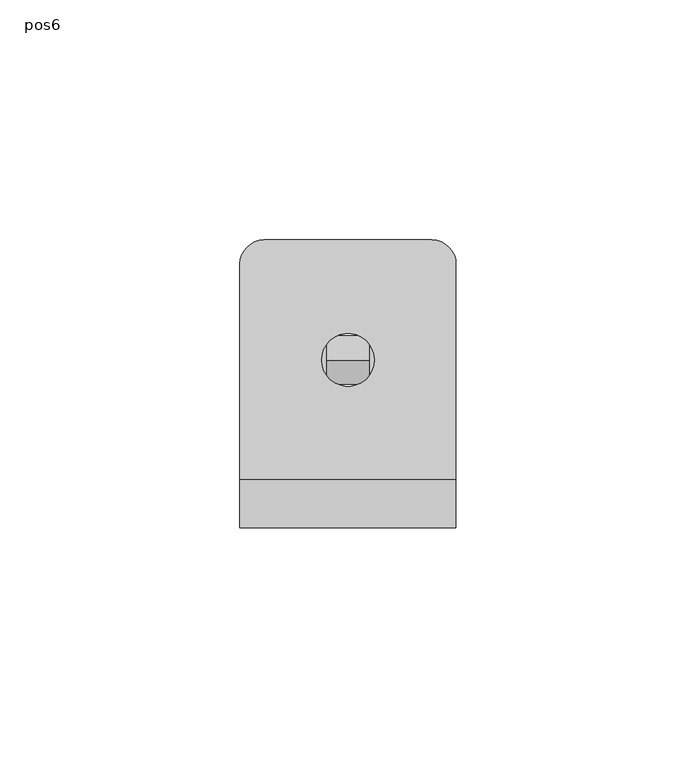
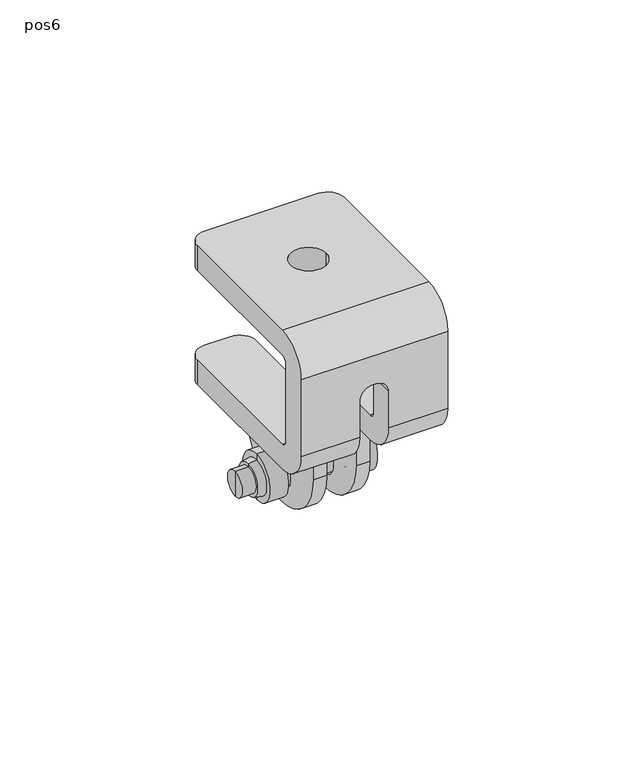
"""IFC4 building model written with IfcOpenShell, lengths in millimetres: proxy geometry, ePS8-BUMP-CVM : pos6."""

from ifc_helpers import new_model, si_unit, point, frame, frame_2d, origin, origin_with_axes, place, context, project, spatial, polyline, circle_curve, trimmed, segment, composite_curve, outline, extrude, source, transform, mapped, element, save
from ifc_brep_helpers import plane_surface, cylinder_surface, revolved_surface, advanced_brep


def pos6_370ce32c(model_context):
    return source(origin(), model_context, "Body", "SolidModel", [
        advanced_brep(
        [(9.6, 0.0, -64.9833675), (9.6, 0.0, -49.0166325), (16.6, 0.0, -49.0166325), (16.6, 0.0, -64.9833675), (9.6, 0.0, -62.0464553), (9.6, 0.0, -51.9535447), (-10.4, 0.0, -62.0464553), (-10.4, 0.0, -51.9535447), (-10.4, 0.0, -64.4129714), (-10.4, 0.0, -49.5870286), (-15.9, 0.0, -64.4129714), (-15.9, 0.0, -49.5870286), (-15.9, 0.0, -62.532406), (-15.9, 0.0, -51.467594), (-22.5, 0.0, -61.0092665), (-22.5, 0.0, -52.9907335), (-18.4, 0.0, -52.9907335), (-18.4, 0.0, -61.0092665), (-22.5, 0.0, -57.0), (16.6, 0.0, -57.0), (-18.4, 0.0, -62.0464553), (-18.4, 0.0, -51.9535447)],
        [
            (0, 1, circle_curve(frame((9.6, 0.0, -57.0), z_axis=(1.0, 0.0, 0.0), x_axis=(0.0, 0.0, 1.0)), 7.9833675)),
            (1, 2),
            (2, 3, circle_curve(frame((16.6, 0.0, -57.0), z_axis=(-1.0, 0.0, 0.0), x_axis=(0.0, 0.0, 1.0)), 7.9833675)),
            (3, 0),
            (1, 0, circle_curve(frame((9.6, 0.0, -57.0), z_axis=(1.0, 0.0, 0.0), x_axis=(0.0, 0.0, 1.0)), 7.9833675)),
            (3, 2, circle_curve(frame((16.6, 0.0, -57.0), z_axis=(-1.0, 0.0, 0.0), x_axis=(0.0, 0.0, 1.0)), 7.9833675)),
            (4, 5, circle_curve(frame((9.6, 0.0, -57.0), z_axis=(1.0, 0.0, 0.0), x_axis=(0.0, 0.0, 1.0)), 5.0464553)),
            (5, 1),
            (0, 4),
            (5, 4, circle_curve(frame((9.6, 0.0, -57.0), z_axis=(1.0, 0.0, 0.0), x_axis=(0.0, 0.0, 1.0)), 5.0464553)),
            (6, 7, circle_curve(frame((-10.4, 0.0, -57.0), z_axis=(1.0, 0.0, 0.0), x_axis=(0.0, 0.0, 1.0)), 5.0464553)),
            (7, 5),
            (4, 6),
            (7, 6, circle_curve(frame((-10.4, 0.0, -57.0), z_axis=(1.0, 0.0, 0.0), x_axis=(0.0, 0.0, 1.0)), 5.0464553)),
            (8, 9, circle_curve(frame((-10.4, 0.0, -57.0), z_axis=(1.0, 0.0, 0.0), x_axis=(0.0, 0.0, 1.0)), 7.4129714)),
            (9, 7),
            (6, 8),
            (9, 8, circle_curve(frame((-10.4, 0.0, -57.0), z_axis=(1.0, 0.0, 0.0), x_axis=(0.0, 0.0, 1.0)), 7.4129714)),
            (10, 11, circle_curve(frame((-15.9, 0.0, -57.0), z_axis=(1.0, 0.0, 0.0), x_axis=(0.0, 0.0, 1.0)), 7.4129714)),
            (11, 9),
            (8, 10),
            (11, 10, circle_curve(frame((-15.9, 0.0, -57.0), z_axis=(1.0, 0.0, 0.0), x_axis=(0.0, 0.0, 1.0)), 7.4129714)),
            (12, 13, circle_curve(frame((-15.9, 0.0, -57.0), z_axis=(1.0, 0.0, 0.0), x_axis=(0.0, 0.0, 1.0)), 5.532406)),
            (13, 11),
            (10, 12),
            (13, 12, circle_curve(frame((-15.9, 0.0, -57.0), z_axis=(1.0, 0.0, 0.0), x_axis=(0.0, 0.0, 1.0)), 5.532406)),
            (14, 15, circle_curve(frame((-22.5, 0.0, -57.0), z_axis=(1.0, 0.0, 0.0), x_axis=(0.0, 0.0, 1.0)), 4.0092665)),
            (15, 16),
            (16, 17, circle_curve(frame((-18.4, 0.0, -57.0), z_axis=(-1.0, 0.0, 0.0), x_axis=(0.0, 0.0, 1.0)), 4.0092665)),
            (17, 14),
            (15, 14, circle_curve(frame((-22.5, 0.0, -57.0), z_axis=(1.0, 0.0, 0.0), x_axis=(0.0, 0.0, 1.0)), 4.0092665)),
            (17, 16, circle_curve(frame((-18.4, 0.0, -57.0), z_axis=(-1.0, 0.0, 0.0), x_axis=(0.0, 0.0, 1.0)), 4.0092665)),
            (18, 15),
            (14, 18),
            (2, 19),
            (19, 3),
            (20, 21, circle_curve(frame((-18.4, 0.0, -57.0), z_axis=(1.0, 0.0, 0.0), x_axis=(0.0, 0.0, 1.0)), 5.0464553)),
            (21, 13),
            (12, 20),
            (21, 20, circle_curve(frame((-18.4, 0.0, -57.0), z_axis=(1.0, 0.0, 0.0), x_axis=(0.0, 0.0, 1.0)), 5.0464553)),
            (16, 21),
            (20, 17),
        ],
        [
            cylinder_surface(frame((-47.541832, 0.0, -57.0), z_axis=(-1.0, 0.0, 0.0), x_axis=(0.0, 0.0, 1.0)), 7.9833675),
            plane_surface(frame((9.6, 0.0, -57.0), z_axis=(-1.0, 0.0, 0.0), x_axis=(0.0, 0.0, 1.0))),
            cylinder_surface(frame((-47.541832, 0.0, -57.0), z_axis=(-1.0, 0.0, 0.0), x_axis=(0.0, 0.0, 1.0)), 5.0464553),
            plane_surface(frame((-10.4, 0.0, -57.0), z_axis=(1.0, 0.0, 0.0), x_axis=(0.0, 0.0, 1.0))),
            cylinder_surface(frame((-47.541832, 0.0, -57.0), z_axis=(-1.0, 0.0, 0.0), x_axis=(0.0, 0.0, 1.0)), 7.4129714),
            plane_surface(frame((-15.9, 0.0, -57.0), z_axis=(-1.0, 0.0, 0.0), x_axis=(0.0, 0.0, 1.0))),
            cylinder_surface(frame((-47.541832, 0.0, -57.0), z_axis=(-1.0, 0.0, 0.0), x_axis=(0.0, 0.0, 1.0)), 4.0092665),
            plane_surface(frame((-22.5, 0.0, -57.0), z_axis=(-1.0, 0.0, 0.0), x_axis=(0.0, 0.0, 1.0))),
            plane_surface(frame((16.6, 0.0, -57.0), z_axis=(1.0, 0.0, 0.0), x_axis=(0.0, 0.0, 1.0))),
            revolved_surface(polyline([(-15.9, 0.0, -51.467594), (-18.4, 0.0, -51.9535447)]), (-47.541832, 0.0, -57.0), (-1.0, 0.0, 0.0)),
            plane_surface(frame((-18.4, 0.0, -57.0), z_axis=(-1.0, 0.0, 0.0), x_axis=(0.0, 0.0, 1.0))),
        ],
        [
            (0, [[1, 2, 3, 4]]),
            (0, [[5, -4, 6, -2]]),
            (1, [[7, 8, -1, 9]]),
            (1, [[10, -9, -5, -8]]),
            (2, [[11, 12, -7, 13]]),
            (2, [[14, -13, -10, -12]]),
            (3, [[15, 16, -11, 17]]),
            (3, [[18, -17, -14, -16]]),
            (4, [[19, 20, -15, 21]]),
            (4, [[22, -21, -18, -20]]),
            (5, [[23, 24, -19, 25]]),
            (5, [[26, -25, -22, -24]]),
            (6, [[27, 28, 29, 30]]),
            (6, [[31, -30, 32, -28]]),
            (7, [[33, -27, 34]]),
            (7, [[-34, -31, -33]]),
            (8, [[-3, 35, 36]]),
            (8, [[-6, -36, -35]]),
            (9, [[37, 38, -23, 39]]),
            (9, [[40, -39, -26, -38]]),
            (10, [[-29, 41, -37, 42]]),
            (10, [[-32, -42, -40, -41]]),
        ],
    ),
        extrude(outline(composite_curve([segment(polyline([(-17.5, -50.0), (-17.5, -37.0), (17.5, -37.0), (17.5, -50.0)]), True, "CONTINUOUS"), segment(trimmed(circle_curve(frame_2d((0.5, -50.0)), 17.0), [point((17.5, -50.0))], [point((0.5, -67.0))], False, "CARTESIAN"), True, "CONTINUOUS"), segment(polyline([(0.5, -67.0), (-0.5, -67.0)]), True, "CONTINUOUS"), segment(trimmed(circle_curve(frame_2d((-0.5, -50.0)), 17.0), [point((-0.5, -67.0))], [point((-17.5, -50.0))], False, "CARTESIAN"), True, "CONTINUOUS")], self_intersect=False), holes=[composite_curve([segment(trimmed(circle_curve(frame_2d((0.0, -57.0)), 5.5), [point((5.5, -57.0))], [point((-5.5, -57.0))], True, "CARTESIAN"), True, "CONTINUOUS"), segment(trimmed(circle_curve(frame_2d((0.0, -57.0)), 5.5), [point((-5.5, -57.0))], [point((5.5, -57.0))], True, "CARTESIAN"), True, "CONTINUOUS")], self_intersect=False)]), frame((4.5, 0.0, 0.0), z_axis=(1.0, 0.0, 0.0), x_axis=(0.0, 1.0, 0.0)), (0.0, 0.0, 1.0), 4.2),
        extrude(outline(composite_curve([segment(polyline([(-17.5, -37.0), (17.5, -37.0), (17.5, -50.0)]), True, "CONTINUOUS"), segment(trimmed(circle_curve(frame_2d((0.5, -50.0)), 17.0), [point((17.5, -50.0))], [point((0.5, -67.0))], False, "CARTESIAN"), True, "CONTINUOUS"), segment(polyline([(0.5, -67.0), (-0.5, -67.0)]), True, "CONTINUOUS"), segment(trimmed(circle_curve(frame_2d((-0.5, -50.0)), 17.0), [point((-0.5, -67.0))], [point((-17.5, -50.0))], False, "CARTESIAN"), True, "CONTINUOUS"), segment(polyline([(-17.5, -50.0), (-17.5, -37.0)]), True, "CONTINUOUS")], self_intersect=False), holes=[composite_curve([segment(trimmed(circle_curve(frame_2d((0.0, -57.0)), 5.5), [point((-5.5, -57.0))], [point((5.5, -57.0))], True, "CARTESIAN"), True, "CONTINUOUS"), segment(trimmed(circle_curve(frame_2d((0.0, -57.0)), 5.5), [point((5.5, -57.0))], [point((-5.5, -57.0))], True, "CARTESIAN"), True, "CONTINUOUS")], self_intersect=False)]), frame((-8.7, 0.0, 0.0), z_axis=(1.0, 0.0, 0.0), x_axis=(0.0, 1.0, 0.0)), (0.0, 0.0, 1.0), 4.2),
        advanced_brep(
        [(22.5, -25.0, 8.0), (22.5, -35.0, -2.0), (22.5, -35.0, -27.0), (22.5, -25.0, -37.0), (22.5, 20.0, -37.0), (22.5, 20.0, -29.0), (22.5, -25.0, -29.0), (22.5, -27.0, -27.0), (22.5, -27.0, -2.0), (22.5, -25.0, 0.0), (22.5, 20.0, 0.0), (22.5, 20.0, 8.0), (-22.5, -25.0, 0.0), (-22.5, -27.0, -2.0), (-22.5, -27.0, -27.0), (-22.5, -25.0, -29.0), (-22.5, 20.0, -29.0), (-22.5, 20.0, -37.0), (-22.5, -25.0, -37.0), (-22.5, -35.0, -27.0), (-22.5, -35.0, -2.0), (-22.5, -25.0, 8.0), (-22.5, 20.0, 8.0), (-22.5, 20.0, 0.0), (-4.5, -35.0, -27.0), (-4.5, -35.0, -15.424778), (-0.5, -35.0, -11.424778), (0.5, -35.0, -11.424778), (4.5, -35.0, -15.424778), (4.5, -35.0, -27.0), (4.5, -25.0, -37.0), (-4.5, -25.0, -37.0), (4.5, 20.0, -37.0), (9.5, 25.0, -37.0), (17.5, 25.0, -37.0), (-17.5, 25.0, -37.0), (-9.5, 25.0, -37.0), (-4.5, 20.0, -37.0), (-17.5, 25.0, -29.0), (-9.5, 25.0, -29.0), (17.5, 25.0, -29.0), (9.5, 25.0, -29.0), (4.5, 20.0, -29.0), (4.5, -25.0, -29.0), (-4.5, -25.0, -29.0), (-4.5, 20.0, -29.0), (4.5, -27.0, -27.0), (-4.5, -27.0, -27.0), (4.5, -27.0, -15.424778), (0.5, -27.0, -11.424778), (-0.5, -27.0, -11.424778), (-4.5, -27.0, -15.424778), (-17.5, 25.0, 0.0), (17.5, 25.0, 0.0), (-5.4761514, 0.0, 0.0), (5.4761514, 0.0, 0.0), (-17.5, 25.0, 8.0), (17.5, 25.0, 8.0), (5.4761514, 0.0, 8.0), (-5.4761514, 0.0, 8.0)],
        [
            (0, 1, circle_curve(frame((22.5, -25.0, -2.0), z_axis=(1.0, 0.0, 0.0), x_axis=(0.0, 1.0, 0.0)), 10.0)),
            (1, 2),
            (2, 3, circle_curve(frame((22.5, -25.0, -27.0), z_axis=(1.0, 0.0, 0.0), x_axis=(0.0, 1.0, 0.0)), 10.0)),
            (3, 4),
            (4, 5),
            (5, 6),
            (6, 7, circle_curve(frame((22.5, -25.0, -27.0), z_axis=(-1.0, 0.0, 0.0), x_axis=(0.0, 1.0, 0.0)), 2.0)),
            (7, 8),
            (8, 9, circle_curve(frame((22.5, -25.0, -2.0), z_axis=(-1.0, 0.0, 0.0), x_axis=(0.0, 1.0, 0.0)), 2.0)),
            (9, 10),
            (10, 11),
            (11, 0),
            (12, 13, circle_curve(frame((-22.5, -25.0, -2.0), z_axis=(1.0, 0.0, 0.0), x_axis=(0.0, 1.0, 0.0)), 2.0)),
            (13, 14),
            (14, 15, circle_curve(frame((-22.5, -25.0, -27.0), z_axis=(1.0, 0.0, 0.0), x_axis=(0.0, 1.0, 0.0)), 2.0)),
            (15, 16),
            (16, 17),
            (17, 18),
            (18, 19, circle_curve(frame((-22.5, -25.0, -27.0), z_axis=(-1.0, 0.0, 0.0), x_axis=(0.0, 1.0, 0.0)), 10.0)),
            (19, 20),
            (20, 21, circle_curve(frame((-22.5, -25.0, -2.0), z_axis=(-1.0, 0.0, 0.0), x_axis=(0.0, 1.0, 0.0)), 10.0)),
            (21, 22),
            (22, 23),
            (23, 12),
            (0, 21),
            (20, 1),
            (19, 24),
            (24, 25),
            (25, 26, circle_curve(frame((-0.5, -35.0, -15.424778), z_axis=(0.0, 1.0, 0.0), x_axis=(1.0, 0.0, 0.0)), 4.0)),
            (26, 27),
            (27, 28, circle_curve(frame((0.5, -35.0, -15.424778), z_axis=(0.0, 1.0, 0.0), x_axis=(1.0, 0.0, 0.0)), 4.0)),
            (28, 29),
            (29, 2),
            (29, 30, circle_curve(frame((4.5, -25.0, -27.0), z_axis=(1.0, 0.0, 0.0), x_axis=(0.0, 1.0, 0.0)), 10.0)),
            (30, 3),
            (18, 31),
            (31, 24, circle_curve(frame((-4.5, -25.0, -27.0), z_axis=(-1.0, 0.0, 0.0), x_axis=(0.0, 1.0, 0.0)), 10.0)),
            (30, 32),
            (32, 33, circle_curve(frame((9.5, 20.0, -37.0), z_axis=(0.0, 0.0, -1.0), x_axis=(-1.0, 0.0, 0.0)), 5.0)),
            (33, 34),
            (34, 4, circle_curve(frame((17.5, 20.0, -37.0), z_axis=(0.0, 0.0, -1.0), x_axis=(-1.0, 0.0, 0.0)), 5.0)),
            (17, 35, circle_curve(frame((-17.5, 20.0, -37.0), z_axis=(0.0, 0.0, -1.0), x_axis=(1.0, 0.0, 0.0)), 5.0)),
            (35, 36),
            (36, 37, circle_curve(frame((-9.5, 20.0, -37.0), z_axis=(0.0, 0.0, -1.0), x_axis=(1.0, 0.0, 0.0)), 5.0)),
            (37, 31),
            (35, 38),
            (38, 39),
            (39, 36),
            (40, 34),
            (33, 41),
            (41, 40),
            (5, 40, circle_curve(frame((17.5, 20.0, -29.0), z_axis=(0.0, 0.0, 1.0), x_axis=(-1.0, 0.0, 0.0)), 5.0)),
            (41, 42, circle_curve(frame((9.5, 20.0, -29.0), z_axis=(0.0, 0.0, 1.0), x_axis=(-1.0, 0.0, 0.0)), 5.0)),
            (42, 43),
            (43, 6),
            (15, 44),
            (44, 45),
            (45, 39, circle_curve(frame((-9.5, 20.0, -29.0), z_axis=(0.0, 0.0, 1.0), x_axis=(1.0, 0.0, 0.0)), 5.0)),
            (38, 16, circle_curve(frame((-17.5, 20.0, -29.0), z_axis=(0.0, 0.0, 1.0), x_axis=(1.0, 0.0, 0.0)), 5.0)),
            (43, 46, circle_curve(frame((4.5, -25.0, -27.0), z_axis=(-1.0, 0.0, 0.0), x_axis=(0.0, 1.0, 0.0)), 2.0)),
            (46, 7),
            (14, 47),
            (47, 44, circle_curve(frame((-4.5, -25.0, -27.0), z_axis=(1.0, 0.0, 0.0), x_axis=(0.0, 1.0, 0.0)), 2.0)),
            (46, 48),
            (48, 49, circle_curve(frame((0.5, -27.0, -15.424778), z_axis=(0.0, -1.0, 0.0), x_axis=(1.0, 0.0, 0.0)), 4.0)),
            (49, 50),
            (50, 51, circle_curve(frame((-0.5, -27.0, -15.424778), z_axis=(0.0, -1.0, 0.0), x_axis=(1.0, 0.0, 0.0)), 4.0)),
            (51, 47),
            (13, 8),
            (12, 9),
            (23, 52, circle_curve(frame((-17.5, 20.0, 0.0), z_axis=(0.0, 0.0, -1.0), x_axis=(1.0, 0.0, 0.0)), 5.0)),
            (52, 53),
            (53, 10, circle_curve(frame((17.5, 20.0, 0.0), z_axis=(0.0, 0.0, -1.0), x_axis=(-1.0, 0.0, 0.0)), 5.0)),
            (54, 55, circle_curve(origin_with_axes(), 5.4761514)),
            (55, 54, circle_curve(origin_with_axes(), 5.4761514)),
            (52, 56),
            (56, 57),
            (57, 53),
            (11, 57, circle_curve(frame((17.5, 20.0, 8.0), z_axis=(0.0, 0.0, 1.0), x_axis=(-1.0, 0.0, 0.0)), 5.0)),
            (56, 22, circle_curve(frame((-17.5, 20.0, 8.0), z_axis=(0.0, 0.0, 1.0), x_axis=(1.0, 0.0, 0.0)), 5.0)),
            (58, 59, circle_curve(frame((0.0, 0.0, 8.0), z_axis=(0.0, 0.0, -1.0), x_axis=(1.0, 0.0, 0.0)), 5.4761514)),
            (59, 58, circle_curve(frame((0.0, 0.0, 8.0), z_axis=(0.0, 0.0, -1.0), x_axis=(1.0, 0.0, 0.0)), 5.4761514)),
            (58, 55),
            (54, 59),
            (28, 48),
            (42, 32),
            (27, 49),
            (26, 50),
            (25, 51),
            (37, 45),
        ],
        [
            plane_surface(frame((22.5, -15.0, -2.0), z_axis=(1.0, 0.0, 0.0), x_axis=(0.0, 0.0, 1.0))),
            plane_surface(frame((-22.5, -15.0, -2.0), z_axis=(-1.0, 0.0, 0.0), x_axis=(0.0, 0.0, -1.0))),
            cylinder_surface(frame((-22.5, -25.0, -2.0), z_axis=(1.0, 0.0, 0.0), x_axis=(0.0, 1.0, 0.0)), 10.0),
            plane_surface(frame((22.5, -35.0, -2.0), z_axis=(0.0, -1.0, 0.0), x_axis=(-1.0, 0.0, 0.0))),
            cylinder_surface(frame((-22.5, -25.0, -27.0), z_axis=(1.0, 0.0, 0.0), x_axis=(0.0, 1.0, 0.0)), 10.0),
            plane_surface(frame((22.5, -25.0, -37.0), z_axis=(0.0, 0.0, -1.0), x_axis=(-1.0, 0.0, 0.0))),
            plane_surface(frame((22.5, 25.0, -37.0), z_axis=(0.0, 1.0, 0.0), x_axis=(-1.0, 0.0, 0.0))),
            plane_surface(frame((22.5, 25.0, -29.0), z_axis=(0.0, 0.0, 1.0), x_axis=(-1.0, 0.0, 0.0))),
            revolved_surface(polyline([(4.5, -23.0, -27.0), (22.5, -23.0, -27.0)]), (-22.5, -25.0, -27.0), (-1.0, 0.0, 0.0)),
            revolved_surface(polyline([(-22.5, -23.0, -27.0), (-4.5, -23.0, -27.0)]), (-22.5, -25.0, -27.0), (-1.0, 0.0, 0.0)),
            plane_surface(frame((22.5, -27.0, -27.0), z_axis=(0.0, 1.0, 0.0), x_axis=(-1.0, 0.0, 0.0))),
            revolved_surface(polyline([(-22.5, -23.0, -2.0), (22.5, -23.0, -2.0)]), (-22.5, -25.0, -2.0), (-1.0, 0.0, 0.0)),
            plane_surface(frame((22.5, -25.0, 0.0), z_axis=(0.0, 0.0, -1.0), x_axis=(-1.0, 0.0, 0.0))),
            plane_surface(frame((22.5, 25.0, 0.0), z_axis=(0.0, 1.0, 0.0), x_axis=(-1.0, 0.0, 0.0))),
            plane_surface(frame((22.5, 25.0, 8.0), z_axis=(0.0, 0.0, 1.0), x_axis=(-1.0, 0.0, 0.0))),
            cylinder_surface(frame((-17.5, 20.0, -37.0), z_axis=(0.0, 0.0, -1.0), x_axis=(1.0, 0.0, 0.0)), 5.0),
            cylinder_surface(frame((17.5, 20.0, 0.0), z_axis=(0.0, 0.0, -1.0), x_axis=(-1.0, 0.0, 0.0)), 5.0),
            revolved_surface(polyline([(5.4761514, 0.0, 8.0), (5.4761514, 0.0, 0.0)]), (0.0, 0.0, 0.0), (0.0, 0.0, 1.0)),
            plane_surface(frame((4.5, -35.0, -67.0), z_axis=(-1.0, 0.0, 0.0), x_axis=(0.0, 1.0, 0.0))),
            revolved_surface(polyline([(4.5, -35.0, -15.424778), (4.5, -27.0, -15.424778)]), (0.5, 25.0, -15.424778), (0.0, -1.0, 0.0)),
            plane_surface(frame((0.5, -35.0, -11.424778), z_axis=(0.0, 0.0, -1.0), x_axis=(0.0, 1.0, 0.0))),
            revolved_surface(polyline([(3.5, -35.0, -15.424778), (3.5, -27.0, -15.424778)]), (-0.5, 25.0, -15.424778), (0.0, -1.0, 0.0)),
            plane_surface(frame((-4.5, -35.0, -15.424778), z_axis=(1.0, 0.0, 0.0), x_axis=(0.0, 1.0, 0.0))),
            cylinder_surface(frame((-9.5, 20.0, -37.0), z_axis=(0.0, 0.0, -1.0), x_axis=(1.0, 0.0, 0.0)), 5.0),
            cylinder_surface(frame((9.5, 20.0, 0.0), z_axis=(0.0, 0.0, -1.0), x_axis=(-1.0, 0.0, 0.0)), 5.0),
        ],
        [
            (0, [[1, 2, 3, 4, 5, 6, 7, 8, 9, 10, 11, 12]]),
            (1, [[13, 14, 15, 16, 17, 18, 19, 20, 21, 22, 23, 24]]),
            (2, [[-1, 25, -21, 26]]),
            (3, [[-2, -26, -20, 27, 28, 29, 30, 31, 32, 33]]),
            (4, [[-3, -33, 34, 35]]),
            (4, [[-19, 36, 37, -27]]),
            (5, [[-4, -35, 38, 39, 40, 41]]),
            (5, [[-18, 42, 43, 44, 45, -36]]),
            (6, [[46, 47, 48, -43]]),
            (6, [[49, -40, 50, 51]]),
            (7, [[-6, 52, -51, 53, 54, 55]]),
            (7, [[-16, 56, 57, 58, -47, 59]]),
            (8, [[-7, -55, 60, 61]]),
            (9, [[-15, 62, 63, -56]]),
            (10, [[-8, -61, 64, 65, 66, 67, 68, -62, -14, 69]]),
            (11, [[-9, -69, -13, 70]]),
            (12, [[-70, -24, 71, 72, 73, -10], [74, 75]]),
            (13, [[-72, 76, 77, 78]]),
            (14, [[-25, -12, 79, -77, 80, -22], [81, 82]]),
            (15, [[-17, -59, -46, -42]]),
            (15, [[-23, -80, -76, -71]]),
            (16, [[-5, -41, -49, -52]]),
            (16, [[-11, -73, -78, -79]]),
            (17, [[83, -74, 84, -81]]),
            (17, [[-83, -82, -84, -75]]),
            (18, [[85, -64, -60, -54, 86, -38, -34, -32]]),
            (19, [[-85, -31, 87, -65]]),
            (20, [[-87, -30, 88, -66]]),
            (21, [[-88, -29, 89, -67]]),
            (22, [[-89, -28, -37, -45, 90, -57, -63, -68]]),
            (23, [[-44, -48, -58, -90]]),
            (24, [[-39, -86, -53, -50]]),
        ],
    ),
    ])


if __name__ == "__main__":
    model = new_model("IFC4")
    model_context = context("Model", 3, world=origin())
    ifc_project = project(units=[si_unit("LENGTHUNIT", "METRE", prefix="MILLI")], contexts=[model_context])
    site = spatial("IfcSite", under=ifc_project)
    building = spatial("IfcBuilding", under=site)
    placement = place(None, origin())
    pos6_shape = pos6_370ce32c(model_context)
    element("IfcBuildingElementProxy", 1, Name="ePS8-BUMP-CVM : pos6", ObjectType="ePS8-BUMP-CVM : pos6", at=placement, inside=building, context=model_context, shape_type="MappedRepresentation", body=[
        mapped(pos6_shape, transform((0.0, 0.0, 0.0), x_axis=(1.0, 0.0, 0.0), y_axis=(0.0, 1.0, 0.0), z_axis=(0.0, 0.0, 1.0))),
    ])
    save(model, "model.ifc")
